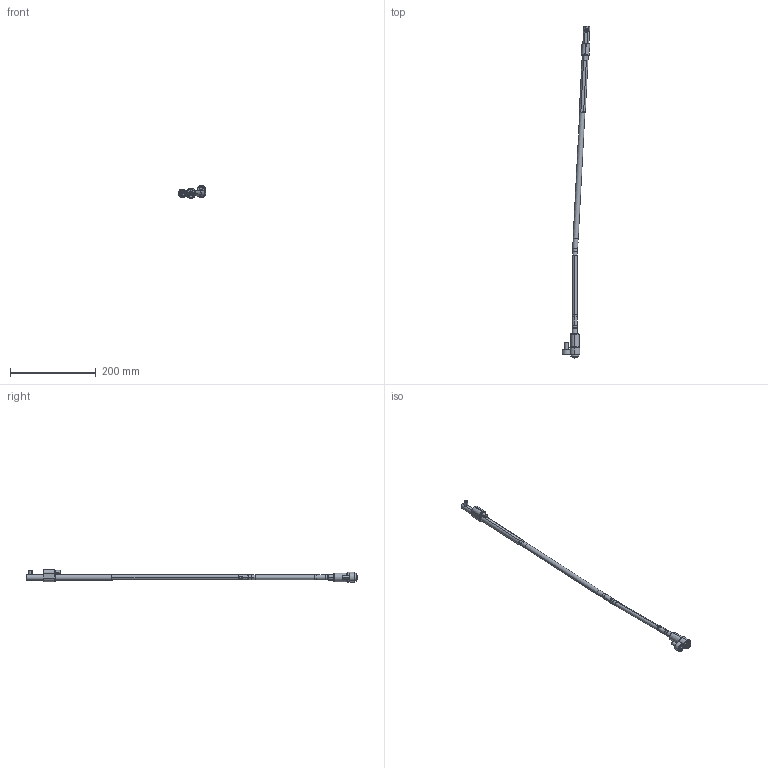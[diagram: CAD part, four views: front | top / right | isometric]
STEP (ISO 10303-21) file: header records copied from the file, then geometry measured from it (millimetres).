
FILE_DESCRIPTION (( 'STEP AP214' ), '1' );
FILE_NAME ('WL120125-INJ 3°.STEP', '2021-03-19T15:40:00', ( '' ), ( '' ), 'SwSTEP 2.0', 'SolidWorks 2019', '' );
FILE_SCHEMA (( 'AUTOMOTIVE_DESIGN' ));
Length unit declared in the file: millimetre
Products named in the file (17): Web-WL12-XX_OFF-WL120125-3; WL120100-D; Web-WL12-F01; 8WL12EJEP; 1DIN912645_DIN 912 M6 x 45 --- 45C; WL120100-B; Web-WL12-A8; 9DR2808-TOR; WL120100-E; Web-WL12-F00.SLDPRT; Web-WL12-A3; WL120125-INJ 3°; WL120100-B1; 1DIN912820_DIN 912 M8 x 20 --- 20C; 3IMAN5X3-150_con sellador; Web-WL12-A2; Web-WL12-A1
Assembly tree (16 placements, depth 3):
  WL120125-INJ 3°
    Web-WL12-A8
    Web-WL12-XX_OFF-WL120125-3
    Web-WL12-A3
    Web-WL12-A2
    Web-WL12-A1
    Web-WL12-F00.SLDPRT
      Web-WL12-F01
      1DIN912820_DIN 912 M8 x 20 --- 20C
      1DIN912645_DIN 912 M6 x 45 --- 45C
    WL120100-D
    8WL12EJEP
    WL120100-E
    9DR2808-TOR
    WL120100-B
      WL120100-B1
      3IMAN5X3-150_con sellador
Bounding box: 64.05 x 772.62 x 29.9 mm (x, y, z)
Volume: 116547.9 mm3; surface area: 51029.8 mm2
Topology: 15 solids, 15 shells, 432 faces, 906 edges, 525 vertices
Faces by surface type: plane 139, cylinder 123, cone 120, torus 50
Entity records: 13661 total; most frequent: DIRECTION 2240, CARTESIAN_POINT 2104, ORIENTED_EDGE 1788, AXIS2_PLACEMENT_3D 929, EDGE_CURVE 894, VERTEX_POINT 525, EDGE_LOOP 477, CIRCLE 476
